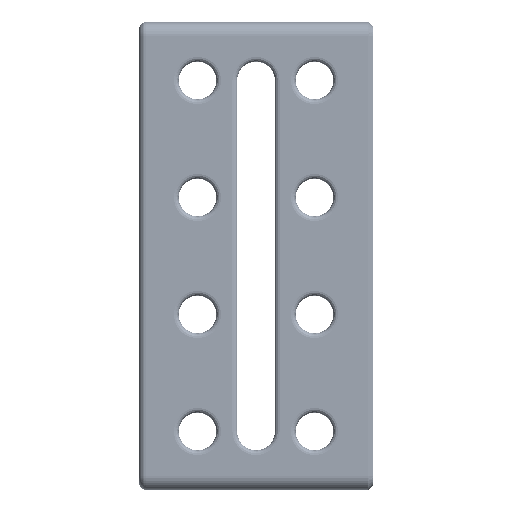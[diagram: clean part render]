
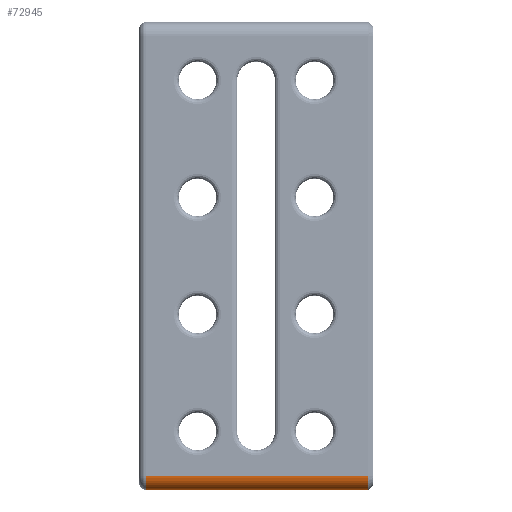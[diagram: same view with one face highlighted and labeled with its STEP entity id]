
A CAD part, left-side view. The second image highlights one B-rep face of the part: STEP entity #72945.
In plain terms, the highlighted cylindrical face has radius 6 mm (diameter 12 mm), a partial arc.
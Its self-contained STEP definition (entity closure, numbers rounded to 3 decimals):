
#4801 = ORIENTED_EDGE ( 'NONE', *, *, #60782, .T. ) ;
#6851 = VECTOR ( 'NONE', #56563, 1000. ) ;
#16246 = CYLINDRICAL_SURFACE ( 'NONE', #22141, 6. ) ;
#19109 = CARTESIAN_POINT ( 'NONE',  ( -1000., -12., -94. ) ) ;
#21830 = EDGE_CURVE ( 'NONE', #47628, #96046, #63298, .T. ) ;
#22141 = AXIS2_PLACEMENT_3D ( 'NONE', #73161, #95644, #80639 ) ;
#23176 = DIRECTION ( 'NONE',  ( 0., 1., 0. ) ) ;
#27912 = VECTOR ( 'NONE', #23176, 1000. ) ;
#28220 = EDGE_CURVE ( 'NONE', #47628, #77898, #46478, .T. ) ;
#31209 = ORIENTED_EDGE ( 'NONE', *, *, #34516, .F. ) ;
#32657 = CARTESIAN_POINT ( 'NONE',  ( -994., -3., -100. ) ) ;
#33313 = DIRECTION ( 'NONE',  ( 0., -1., 0. ) ) ;
#34424 = CARTESIAN_POINT ( 'NONE',  ( -1000., -98., -94. ) ) ;
#34516 = EDGE_CURVE ( 'NONE', #87932, #96046, #47698, .T. ) ;
#40745 = FACE_OUTER_BOUND ( 'NONE', #85809, .T. ) ;
#42877 = AXIS2_PLACEMENT_3D ( 'NONE', #77920, #33313, #85429 ) ;
#43394 = DIRECTION ( 'NONE',  ( 0., 1., 0. ) ) ;
#43554 = AXIS2_PLACEMENT_3D ( 'NONE', #87991, #43394, #95487 ) ;
#46478 = LINE ( 'NONE', #19109, #6851 ) ;
#47628 = VERTEX_POINT ( 'NONE', #64968 ) ;
#47698 = LINE ( 'NONE', #67773, #27912 ) ;
#56563 = DIRECTION ( 'NONE',  ( 0., -1., 0. ) ) ;
#59091 = ORIENTED_EDGE ( 'NONE', *, *, #21830, .T. ) ;
#60782 = EDGE_CURVE ( 'NONE', #87932, #77898, #69107, .T. ) ;
#63298 = CIRCLE ( 'NONE', #42877, 6. ) ;
#63394 = CARTESIAN_POINT ( 'NONE',  ( -994., -98., -100. ) ) ;
#64968 = CARTESIAN_POINT ( 'NONE',  ( -1000., -3., -94. ) ) ;
#67773 = CARTESIAN_POINT ( 'NONE',  ( -994., -12., -100. ) ) ;
#69107 = CIRCLE ( 'NONE', #43554, 6. ) ;
#69291 = ORIENTED_EDGE ( 'NONE', *, *, #28220, .F. ) ;
#72945 = ADVANCED_FACE ( 'NONE', ( #40745 ), #16246, .T. ) ;
#73161 = CARTESIAN_POINT ( 'NONE',  ( -994., -12., -94. ) ) ;
#77898 = VERTEX_POINT ( 'NONE', #34424 ) ;
#77920 = CARTESIAN_POINT ( 'NONE',  ( -994., -3., -94. ) ) ;
#80639 = DIRECTION ( 'NONE',  ( 0., 0., 1. ) ) ;
#85429 = DIRECTION ( 'NONE',  ( 0., 0., 1. ) ) ;
#85809 = EDGE_LOOP ( 'NONE', ( #31209, #4801, #69291, #59091 ) ) ;
#87932 = VERTEX_POINT ( 'NONE', #63394 ) ;
#87991 = CARTESIAN_POINT ( 'NONE',  ( -994., -98., -94. ) ) ;
#95487 = DIRECTION ( 'NONE',  ( 0., 0., 1. ) ) ;
#95644 = DIRECTION ( 'NONE',  ( 0., 1., 0. ) ) ;
#96046 = VERTEX_POINT ( 'NONE', #32657 ) ;
